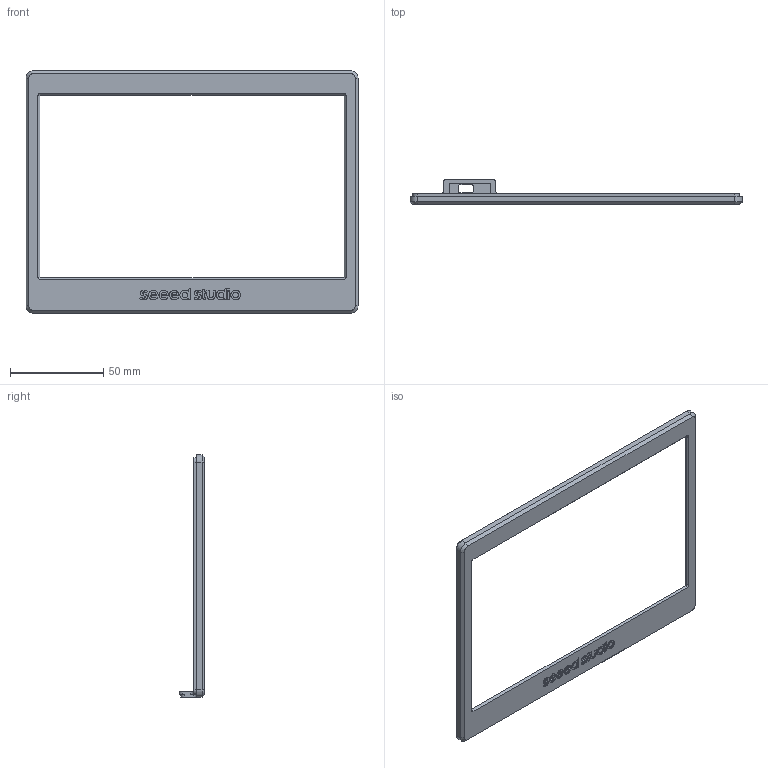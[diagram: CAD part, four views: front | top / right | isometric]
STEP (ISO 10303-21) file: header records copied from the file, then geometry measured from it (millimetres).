
FILE_DESCRIPTION((''),'2;1');
FILE_NAME('00','2025-04-08T12:11:45',('seeed'),(''),'CREO PARAMETRIC BY PTC INC, 2021404','CREO PARAMETRIC BY PTC INC, 2021404','');
FILE_SCHEMA(('AUTOMOTIVE_DESIGN { 1 0 10303 214 1 1 1 1 }'));
Length unit declared in the file: millimetre
Products named in the file (1): 00
Bounding box: 178 x 13.85 x 130 mm (x, y, z)
Volume: 19170 mm3; surface area: 21177.7 mm2
Topology: 1 solids, 1 shells, 355 faces, 973 edges, 668 vertices
Faces by surface type: plane 144, extrusion 142, cylinder 57, cone 12
Entity records: 12475 total; most frequent: CARTESIAN_POINT 3182, ORIENTED_EDGE 1900, DIRECTION 1393, EDGE_CURVE 950, VECTOR 695, VERTEX_POINT 628, LINE 553, B_SPLINE_CURVE_WITH_KNOTS 427
